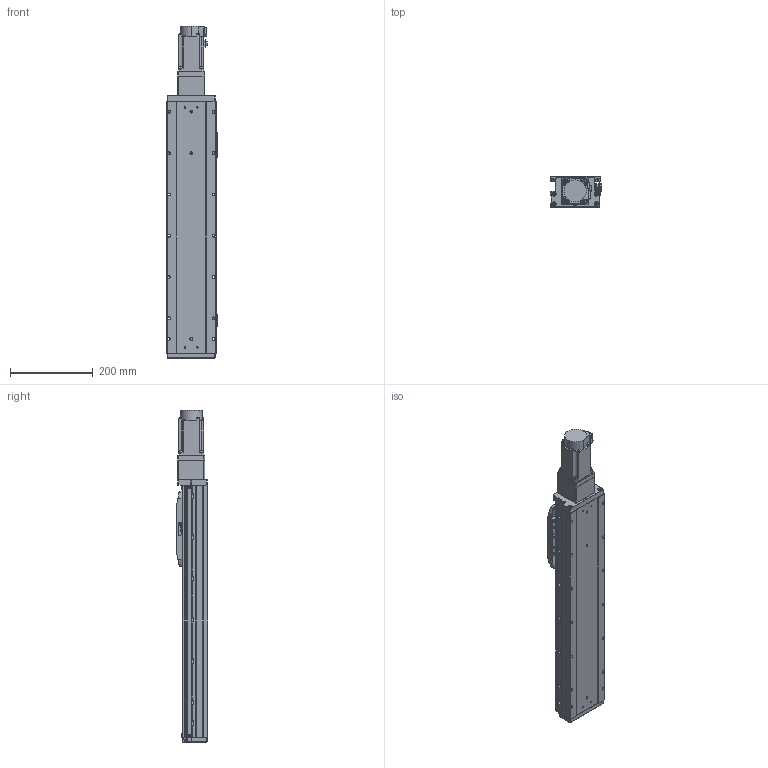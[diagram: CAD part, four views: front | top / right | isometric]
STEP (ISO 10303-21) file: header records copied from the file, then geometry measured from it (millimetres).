
FILE_DESCRIPTION (( 'STEP AP203' ), '1' );
FILE_NAME ('GTH12-400-BC-M40-C4.step', '2022-09-23T01:14:29', ( '微软用户' ), ( '微软中国' ), 'SwSTEP 2.0', 'SolidWorks 2020', '' );
FILE_SCHEMA (( 'CONFIG_CONTROL_DESIGN' ));
Length unit declared in the file: millimetre
Products named in the file (19): BTH-M3X5X6; GTH120-001_400; GBT 70.3-M3℅8; CTHA86-006-1_CTHA86-006-2; GTH120-003; GTH80-022; CTHA86-013; GTH120-006; GTH80-028; CTHA86-027; GTH120-004; GTH50-023; hg-kn43j_-s100_; GTH120-013; GTH50-024; GTH12-400-BC-M40-C4; GBT 70.1-M3℅6; GBT96.1-2002 3×0.8; GBT 70.1-M5×16
Assembly tree (62 placements, depth 2):
  GTH12-400-BC-M40-C4
    GTH120-001_400
    GTH120-003
    GTH120-006
    GTH120-004
    GTH120-013
    GBT 70.1-M3℅6  x14
    GBT 70.1-M5×16  x10
    GBT 70.3-M3℅8  x6
    GTH80-022
    GTH80-028  x2
    GTH50-023  x3
    GTH50-024  x3
    GBT96.1-2002 3×0.8  x6
    BTH-M3X5X6  x8
    CTHA86-006-1_CTHA86-006-2
    CTHA86-013
    CTHA86-027
    hg-kn43j_-s100_
Bounding box: 125.7 x 76 x 803.7 mm (x, y, z)
Volume: 5051039 mm3; surface area: 508497.6 mm2
Topology: 64 solids, 64 shells, 2418 faces, 5591 edges, 3405 vertices
Faces by surface type: plane 1240, cylinder 677, cone 323, torus 170, sphere 8
Entity records: 42860 total; most frequent: DIRECTION 7145, CARTESIAN_POINT 6862, ORIENTED_EDGE 6564, EDGE_CURVE 3282, AXIS2_PLACEMENT_3D 2497, VECTOR 2151, LINE 2151, VERTEX_POINT 2064
